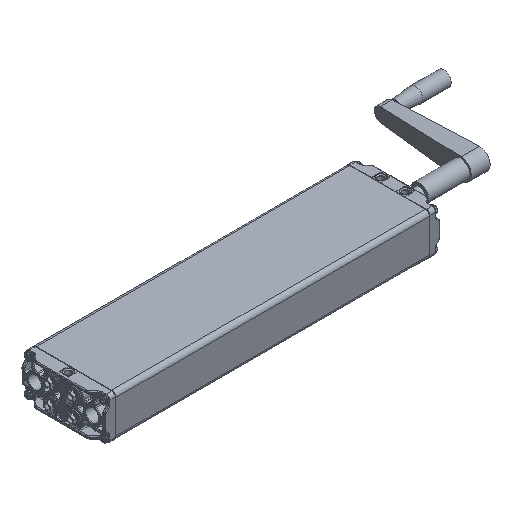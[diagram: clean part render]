
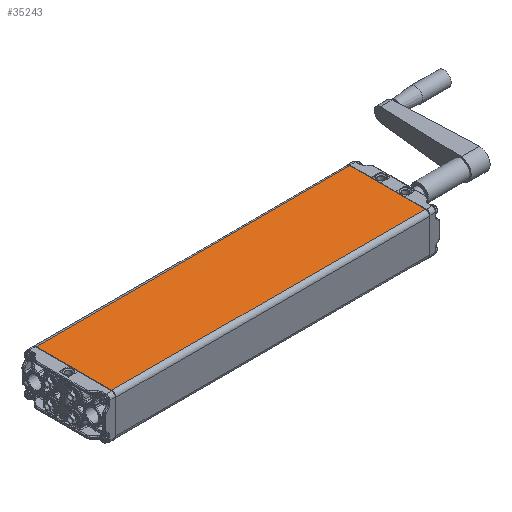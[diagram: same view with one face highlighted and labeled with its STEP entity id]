
A CAD part, isometric view. The second image highlights one B-rep face of the part: STEP entity #35243.
In plain terms, the highlighted planar face has unit normal (0, 0, 1).
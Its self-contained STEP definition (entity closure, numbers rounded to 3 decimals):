
#3660=LINE('',#75788,#5019);
#3661=LINE('',#75791,#5020);
#3662=LINE('',#75793,#5021);
#3663=LINE('',#75795,#5022);
#5019=VECTOR('',#43020,1000.);
#5020=VECTOR('',#43021,1000.);
#5021=VECTOR('',#43022,1000.);
#5022=VECTOR('',#43023,1000.);
#10629=ORIENTED_EDGE('',*,*,#16840,.T.);
#10630=ORIENTED_EDGE('',*,*,#16841,.T.);
#10631=ORIENTED_EDGE('',*,*,#16842,.T.);
#10632=ORIENTED_EDGE('',*,*,#16843,.T.);
#16840=EDGE_CURVE('',#20204,#20205,#3660,.F.);
#16841=EDGE_CURVE('',#20205,#20206,#3661,.T.);
#16842=EDGE_CURVE('',#20206,#20207,#3662,.T.);
#16843=EDGE_CURVE('',#20207,#20204,#3663,.F.);
#20204=VERTEX_POINT('',#75789);
#20205=VERTEX_POINT('',#75790);
#20206=VERTEX_POINT('',#75792);
#20207=VERTEX_POINT('',#75794);
#23875=EDGE_LOOP('',(#10629,#10630,#10631,#10632));
#25983=FACE_BOUND('',#23875,.T.);
#27169=PLANE('',#37682);
#35243=ADVANCED_FACE('',(#25983),#27169,.T.);
#37682=AXIS2_PLACEMENT_3D('',#75787,#43018,#43019);
#43018=DIRECTION('',(0.,0.,1.));
#43019=DIRECTION('',(1.,0.,0.));
#43020=DIRECTION('',(0.,-1.,0.));
#43021=DIRECTION('',(-1.,0.,0.));
#43022=DIRECTION('',(0.,-1.,0.));
#43023=DIRECTION('',(-1.,0.,0.));
#75787=CARTESIAN_POINT('',(60.,450.5,30.));
#75788=CARTESIAN_POINT('',(54.,450.5,30.));
#75789=CARTESIAN_POINT('',(54.,0.5,30.));
#75790=CARTESIAN_POINT('',(54.,450.,30.));
#75791=CARTESIAN_POINT('',(60.,450.,30.));
#75792=CARTESIAN_POINT('',(-54.,450.,30.));
#75793=CARTESIAN_POINT('',(-54.,450.5,30.));
#75794=CARTESIAN_POINT('',(-54.,0.5,30.));
#75795=CARTESIAN_POINT('',(54.,0.5,30.));
